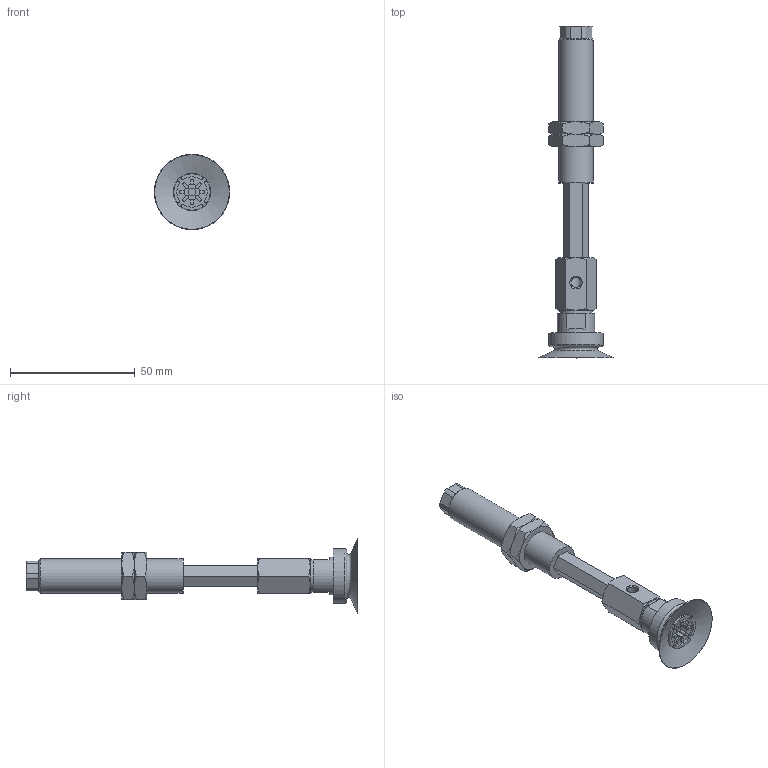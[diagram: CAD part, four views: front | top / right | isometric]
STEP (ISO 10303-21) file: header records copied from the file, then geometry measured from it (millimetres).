
FILE_DESCRIPTION(('STEP AP203'),'1');
FILE_NAME('.stp','2025-03-13T08:32:48',(' '),(' '),'Spatial InterOp 3D',' ',' ');
FILE_SCHEMA(('CONFIG_CONTROL_DESIGN'));
Length unit declared in the file: millimetre
Products named in the file (6): BNABPAYH-30-30-※; CONNECTOR-30-30-PA; Nut-25-S; NAPAYH-30-30--F; NAPAYH-30-30--M; BPAG-30-※
Assembly tree (6 placements, depth 2):
  BNABPAYH-30-30-※
    CONNECTOR-30-30-PA
    Nut-25-S  x2
    NAPAYH-30-30--F
    NAPAYH-30-30--M
    BPAG-30-※
Bounding box: 30.3 x 133.2 x 30.3 mm (x, y, z)
Volume: 19949.4 mm3; surface area: 14859.9 mm2
Topology: 6 solids, 6 shells, 208 faces, 484 edges, 305 vertices
Faces by surface type: plane 99, cylinder 56, cone 51, torus 2
Full cylindrical faces by diameter (mm): 3 x2, 4.134 x2, 4.6 x1, 4.917 x1, 5 x1, 6 x1, 12.917 x2, 13 x1, 14 x1, 15 x1, 22 x1
Entity records: 5768 total; most frequent: CARTESIAN_POINT 1267, DIRECTION 900, ORIENTED_EDGE 814, EDGE_CURVE 407, AXIS2_PLACEMENT_3D 352, VERTEX_POINT 275, EDGE_LOOP 238, FACE_OUTER_BOUND 200
